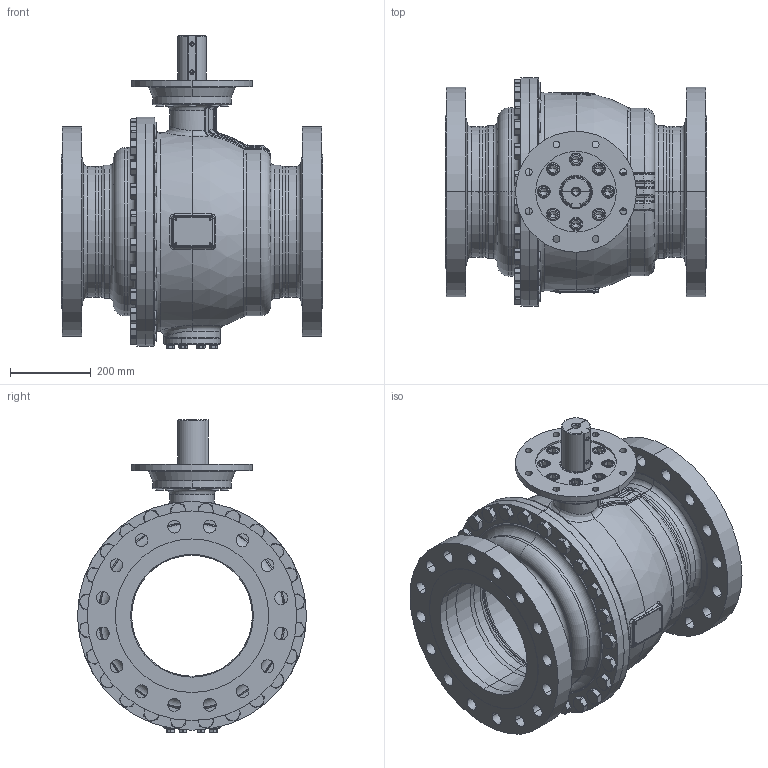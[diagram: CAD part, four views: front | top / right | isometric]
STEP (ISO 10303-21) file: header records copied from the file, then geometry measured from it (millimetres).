
FILE_DESCRIPTION((''),'2;1');
FILE_NAME('KHI-F_300-CL300-F25-P_SW0001','2026-02-05T15:11:24',('fischerkl'),('KLINGER'),'CREO PARAMETRIC BY PTC INC, 2023014','CREO PARAMETRIC BY PTC INC, 2023014','');
FILE_SCHEMA(('CONFIG_CONTROL_DESIGN'));
Products named in the file (1): KHI-F_300-CL300-F25-P_SW0001
Bounding box: 648 x 568 x 774.8 mm (x, y, z)
Volume: 38053893.4 mm3; surface area: 4894134.6 mm2
Topology: 1 solids, 4 shells, 3423 faces, 8678 edges, 5428 vertices
Faces by surface type: plane 1749, cylinder 785, cone 448, torus 301, bspline 111, sphere 29
Entity records: 145770 total; most frequent: CARTESIAN_POINT 64346, ORIENTED_EDGE 17304, DIRECTION 16689, EDGE_CURVE 8652, AXIS2_PLACEMENT_3D 6369, VERTEX_POINT 5428, VECTOR 3951, LINE 3951
